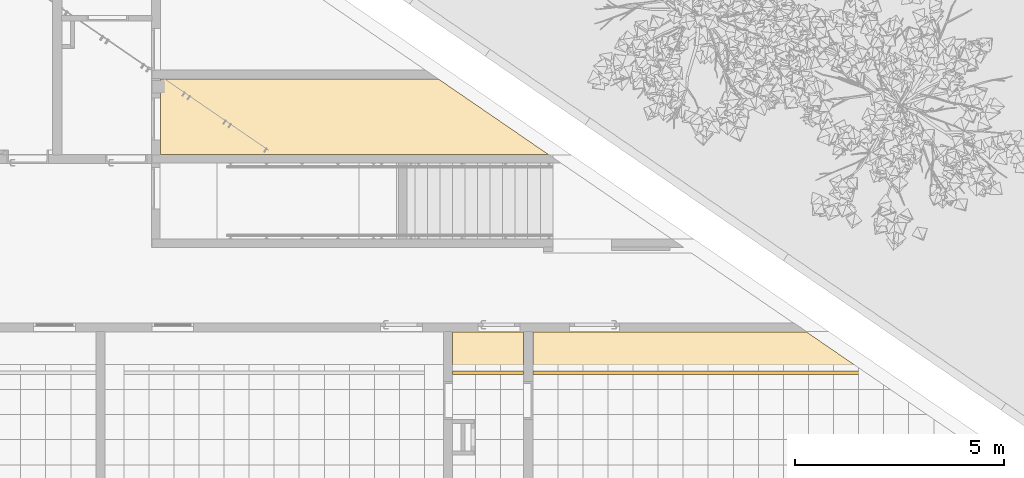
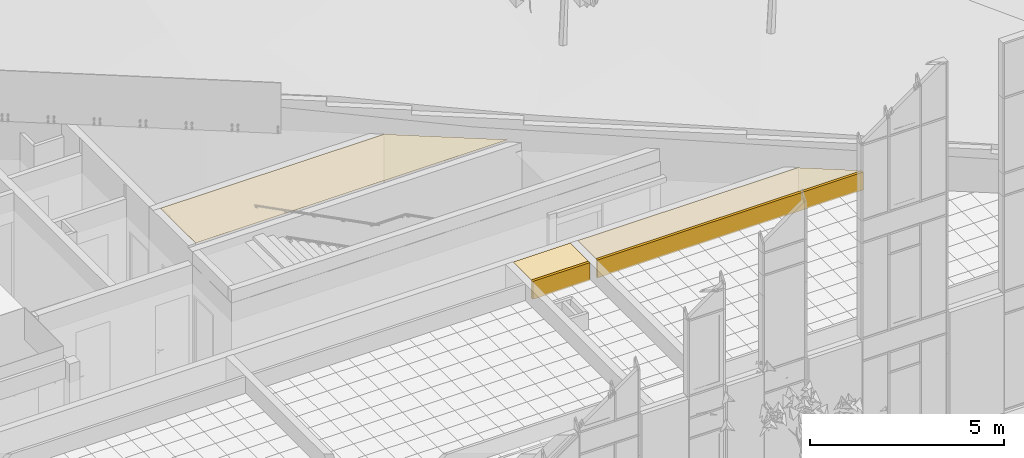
# One storey, part 184 of 246: 5 coverings.
"""IFC2X3 building model written with IfcOpenShell, lengths in millimetres."""

from ifc_helpers import new_model, entity, si_unit, converted_unit, derived_unit, money_unit, direction, frame, origin_with_axes, place, context, subcontext, project, spatial, faceted_brep, material, material_list, type_object, element, save


model = new_model("IFC2X3")

# Units and contexts
model_context = context("Model", 3, precision=0.01, world=origin_with_axes(), true_north=direction((0.0, 1.0)))
body_context = subcontext(model_context, "Body", "Model", "MODEL_VIEW")
ifc_project = project(units=[si_unit("LENGTHUNIT", "METRE", prefix="MILLI"), si_unit("AREAUNIT", "SQUARE_METRE"), si_unit("VOLUMEUNIT", "CUBIC_METRE"), converted_unit("PLANEANGLEUNIT", "DEGREE", entity("IfcPlaneAngleMeasure", 0.0174532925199), si_unit("PLANEANGLEUNIT", "RADIAN"), dimensions=[0, 0, 0, 0, 0, 0, 0]), si_unit("SOLIDANGLEUNIT", "STERADIAN"), money_unit("EUR"), converted_unit("TIMEUNIT", "Year", entity("IfcTimeMeasure", 31556926.0), si_unit("TIMEUNIT", "SECOND"), dimensions=[0, 0, 1, 0, 0, 0, 0]), si_unit("MASSUNIT", "GRAM", prefix="KILO"), si_unit("THERMODYNAMICTEMPERATUREUNIT", "DEGREE_CELSIUS"), si_unit("LUMINOUSINTENSITYUNIT", "LUMEN"), si_unit("ENERGYUNIT", "JOULE", prefix="MEGA"), derived_unit("THERMALCONDUCTANCEUNIT", [(si_unit("POWERUNIT", "WATT"), 1), (si_unit("LENGTHUNIT", "METRE"), -1), (si_unit("THERMODYNAMICTEMPERATUREUNIT", "KELVIN"), -1)]), derived_unit("SPECIFICHEATCAPACITYUNIT", [(si_unit("ENERGYUNIT", "JOULE"), 1), (si_unit("MASSUNIT", "GRAM", prefix="KILO"), -1), (si_unit("THERMODYNAMICTEMPERATUREUNIT", "KELVIN"), -1)]), derived_unit("MASSDENSITYUNIT", [(si_unit("MASSUNIT", "GRAM", prefix="KILO"), 1), (si_unit("VOLUMEUNIT", "CUBIC_METRE"), -1)])], contexts=[model_context])

# Site, building, storey
site_placement = place(None, origin_with_axes())
site = spatial("IfcSite", under=ifc_project, at=site_placement, Name="L.Koidula tn 11b", CompositionType="ELEMENT")
building_placement = place(site_placement, origin_with_axes())
building = spatial("IfcBuilding", under=site, at=building_placement, Name="Rakvere Riigigümnaasium", CompositionType="ELEMENT")
storey_placement = place(building_placement, origin_with_axes())
storey = spatial("IfcBuildingStorey", under=building, at=storey_placement, Name="1.korrus 0,00", CompositionType="ELEMENT", Elevation=0.0)

# Coverings
ifc_material_1 = material(Name="mineraalvill+karkass")
ifc_material_2 = material(Name="SKR-02_Kipsplaat")
ifc_material_list = material_list([ifc_material_1, ifc_material_2])
covering_type_1 = type_object("IfcCoveringType", Name="SA-LV-kips 79", PredefinedType="CEILING")
covering_1_placement = place(storey_placement, frame((93026.1076603, 12135.4543717, 2762.5), z_axis=(0.0, 0.0, 1.0), x_axis=(-1.0, 0.0, 0.0)))
element("IfcCovering", 1, at=covering_1_placement, inside=storey, type_object=covering_type_1, material=ifc_material_list, Name="L-04 vert", PredefinedType="CEILING", context=body_context, shape_type="Brep", body=[
    faceted_brep([(7916.12230716, 12.5, 562.5), (7916.12230716, 78.5, 562.5), (0.0, 78.5, 562.5), (0.0, 12.5, 562.5), (7916.12230716, 12.5, 0.0), (7916.12230716, 78.5, 0.0), (0.0, 78.5, 0.0), (0.0, 12.5, 0.0)], [[[0, 1, 2, 3]], [[0, 4, 5, 1]], [[1, 5, 6, 2]], [[3, 2, 6, 7]], [[4, 0, 3, 7]], [[5, 4, 7, 6]]]),
    faceted_brep([(7916.12230716, 0.0, 562.5), (7916.12230716, 12.5, 562.5), (0.0, 12.5, 562.5), (0.0, 0.0, 562.5), (7916.12230716, 0.0, 0.0), (7916.12230716, 12.5, 0.0), (0.0, 12.5, 0.0), (0.0, 0.0, 0.0)], [[[0, 1, 2, 3]], [[0, 4, 5, 1]], [[1, 5, 6, 2]], [[3, 2, 6, 7]], [[4, 0, 3, 7]], [[5, 4, 7, 6]]]),
])
covering_2_placement = place(storey_placement, frame((84889.9910722, 12135.4543717, 2762.5), z_axis=(0.0, 0.0, 1.0), x_axis=(-1.0, 0.0, 0.0)))
element("IfcCovering", 2, at=covering_2_placement, inside=storey, type_object=covering_type_1, material=ifc_material_list, Name="L-04 vert", PredefinedType="CEILING", context=body_context, shape_type="Brep", body=[
    faceted_brep([(1699.99356132, 12.5, 562.5), (1699.99356132, 78.5, 562.5), (0.0, 78.5, 562.5), (0.0, 12.5, 562.5), (1699.99356132, 12.5, 0.0), (1699.99356132, 78.5, 0.0), (0.0, 78.5, 0.0), (0.0, 12.5, 0.0)], [[[0, 1, 2, 3]], [[0, 4, 5, 1]], [[1, 5, 6, 2]], [[3, 2, 6, 7]], [[4, 0, 3, 7]], [[5, 4, 7, 6]]]),
    faceted_brep([(1699.99356132, 0.0, 562.5), (1699.99356132, 12.5, 562.5), (0.0, 12.5, 562.5), (0.0, 0.0, 562.5), (1699.99356132, 0.0, 0.0), (1699.99356132, 12.5, 0.0), (0.0, 12.5, 0.0), (0.0, 0.0, 0.0)], [[[0, 1, 2, 3]], [[0, 4, 5, 1]], [[1, 5, 6, 2]], [[3, 2, 6, 7]], [[4, 0, 3, 7]], [[5, 4, 7, 6]]]),
])
ifc_material_3 = material(Name="Salto-siseviimistlus-ripplagi")
covering_type_2 = type_object("IfcCoveringType", Name="Salto-siseviimistlus-ripplagi 1", PredefinedType="CLADDING")
covering_3_placement = place(storey_placement, frame((83189.9975109, 12135.4543717, 3325.0), z_axis=(0.0, 0.0, 1.0), x_axis=(1.0, 0.0, 0.0)))
element("IfcCovering", 3, at=covering_3_placement, inside=storey, type_object=covering_type_2, material=ifc_material_3, Name="L-09", PredefinedType="CLADDING", context=body_context, shape_type="Brep", body=[
    faceted_brep([(0.0, 0.0, 0.0), (0.0, 0.0, -1.0), (1699.98784221, 0.0, -1.0), (1699.98784221, 0.0, 0.0), (0.0, 934.998945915, 0.0), (0.0, 934.998945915, -1.0), (1699.98784221, 934.998945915, -1.0), (1699.98784221, 934.998945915, 0.0)], [[[0, 1, 2, 3]], [[4, 5, 1, 0]], [[2, 1, 5, 6]], [[3, 2, 6, 7]], [[4, 0, 3, 7]], [[7, 6, 5, 4]]]),
])
covering_4_placement = place(storey_placement, frame((85109.9853531, 12135.4543717, 3325.0), z_axis=(0.0, 0.0, 1.0), x_axis=(1.0, 0.0, 0.0)))
element("IfcCovering", 4, at=covering_4_placement, inside=storey, type_object=covering_type_2, material=ifc_material_3, Name="L-09", PredefinedType="CLADDING", context=body_context, shape_type="Brep", body=[
    faceted_brep([(0.0, 0.0, 0.0), (0.0, 0.0, -1.0), (7916.12230716, 0.0, -1.0), (7916.12230716, 0.0, 0.0), (0.0, 934.999460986, 0.0), (0.0, 934.999460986, -1.0), (6552.90324903, 935.001218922, -1.0), (6552.90324903, 935.001218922, 0.0)], [[[0, 1, 2, 3]], [[4, 5, 1, 0]], [[2, 1, 5, 6]], [[3, 2, 6, 7]], [[4, 0, 3, 7]], [[7, 6, 5, 4]]]),
])
ifc_material_4 = material(Name="Tolmutõke")
covering_type_3 = type_object("IfcCoveringType", Name="Tolmutõke 1", PredefinedType="CLADDING")
covering_5_placement = place(storey_placement, frame((76199.9814095, 19125.3890244, 3789.99999702), z_axis=(0.0, 0.0, 1.0), x_axis=(1.0, 0.0, 0.0)))
element("IfcCovering", 5, at=covering_5_placement, inside=storey, type_object=covering_type_3, material=ifc_material_4, Name="L-07", PredefinedType="CLADDING", context=body_context, shape_type="Brep", body=[
    faceted_brep([(0.0, 0.0, 0.0), (0.0, 0.0, -1.0), (-0.00152179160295, -1804.93351209, -1.0), (-0.00152179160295, -1804.93351209, 0.0), (6652.57463311, 0.0, 0.0), (6652.57463311, 0.0, -1.0), (9284.14464855, -1804.93351209, -1.0), (9284.14464855, -1804.93351209, 0.0)], [[[0, 1, 2, 3]], [[4, 5, 1, 0]], [[2, 1, 5, 6]], [[3, 2, 6, 7]], [[4, 0, 3, 7]], [[7, 6, 5, 4]]]),
])

save(model, "model.ifc")
